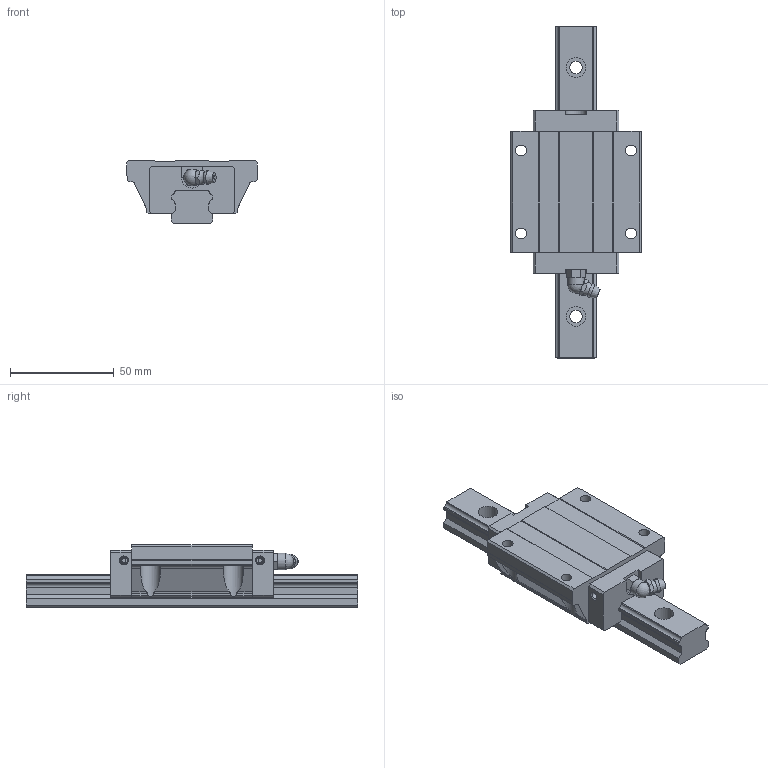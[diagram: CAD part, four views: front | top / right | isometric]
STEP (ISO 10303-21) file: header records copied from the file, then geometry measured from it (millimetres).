
FILE_DESCRIPTION(/* description */ (''),/* implementation_level */ '2;1');
FILE_NAME(/* name */ 'SME20-EA',/* time_stamp */ '2008-10-06T10:08:23+08:00',/* author */ (''),/* organization */ (''),/* preprocessor_version */ 'ST-DEVELOPER v11',/* originating_system */ 'UGS - NX 5.0',/* authorisation */ '');
FILE_SCHEMA (('AUTOMOTIVE_DESIGN { 1 0 10303 214 1 1 1 1 }'));
Length unit declared in the file: millimetre
Products named in the file (1): jillBD1Calg8
Bounding box: 63 x 160 x 30 mm (x, y, z)
Volume: 124865.5 mm3; surface area: 31006.2 mm2
Topology: 3 solids, 3 shells, 200 faces, 540 edges, 359 vertices
Faces by surface type: plane 126, cylinder 59, torus 7, cone 5, sphere 2, bspline 1
Full cylindrical faces by diameter (mm): 2 x4, 3.3 x4, 5.2 x4, 6 x3, 6.5 x2, 8 x1, 9.5 x3
Entity records: 6481 total; most frequent: CARTESIAN_POINT 1289, DIRECTION 1008, ORIENTED_EDGE 990, EDGE_CURVE 495, VERTEX_POINT 344, AXIS2_PLACEMENT_3D 339, LINE 330, VECTOR 330
